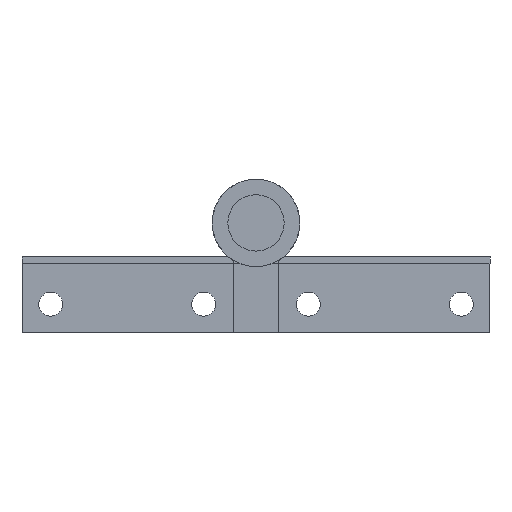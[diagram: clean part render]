
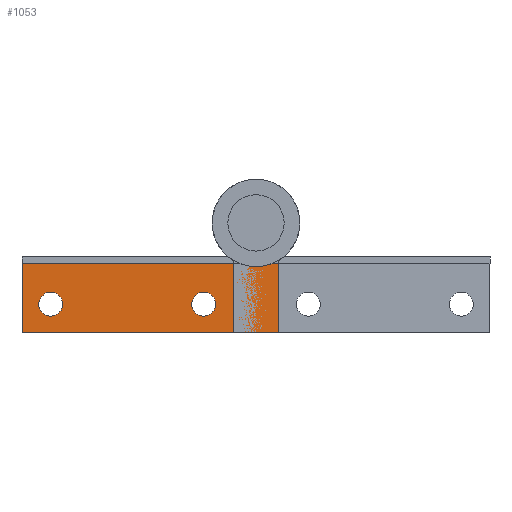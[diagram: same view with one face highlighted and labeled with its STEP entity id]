
A CAD part, front view. The second image highlights one B-rep face of the part: STEP entity #1053.
In plain terms, the highlighted planar face has unit normal (0, -1, 0).
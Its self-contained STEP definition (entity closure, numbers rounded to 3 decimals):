
#6 = PLANE ( 'NONE',  #1875 ) ;
#12 = CARTESIAN_POINT ( 'NONE',  ( 9.15, 408.2, -23. ) ) ;
#13 = DIRECTION ( 'NONE',  ( 0., 1., 0. ) ) ;
#14 = DIRECTION ( 'NONE',  ( 1., 0., 0. ) ) ;
#198 = CARTESIAN_POINT ( 'NONE',  ( -42.95, 408.2, -17. ) ) ;
#199 = DIRECTION ( 'NONE',  ( 0., 1., 0. ) ) ;
#200 = DIRECTION ( 'NONE',  ( 1., 0., 0. ) ) ;
#218 = CARTESIAN_POINT ( 'NONE',  ( -10.95, 408.2, -17. ) ) ;
#219 = DIRECTION ( 'NONE',  ( 0., 1., 0. ) ) ;
#220 = DIRECTION ( 'NONE',  ( 1., 0., 0. ) ) ;
#311 = CARTESIAN_POINT ( 'NONE',  ( 9.15, 408.2, -23. ) ) ;
#312 = DIRECTION ( 'NONE',  ( -1., 0., 0. ) ) ;
#428 = CARTESIAN_POINT ( 'NONE',  ( 4.75, 408.2, -23. ) ) ;
#429 = DIRECTION ( 'NONE',  ( 0., 0., -1. ) ) ;
#443 = CARTESIAN_POINT ( 'NONE',  ( -42.95, 408.2, -17. ) ) ;
#456 = DIRECTION ( 'NONE',  ( 0., 1., 0. ) ) ;
#457 = DIRECTION ( 'NONE',  ( 1., 0., 0. ) ) ;
#541 = CARTESIAN_POINT ( 'NONE',  ( 9.15, 408.2, -8.5 ) ) ;
#542 = DIRECTION ( 'NONE',  ( -1., 0., 0. ) ) ;
#552 = CARTESIAN_POINT ( 'NONE',  ( -10.95, 408.2, -17. ) ) ;
#565 = DIRECTION ( 'NONE',  ( 0., 1., 0. ) ) ;
#566 = DIRECTION ( 'NONE',  ( 1., 0., 0. ) ) ;
#567 = CARTESIAN_POINT ( 'NONE',  ( -48.95, 408.2, -23. ) ) ;
#568 = DIRECTION ( 'NONE',  ( 0., 0., -1. ) ) ;
#663 = EDGE_LOOP ( 'NONE', ( #1728, #1729 ) ) ;
#665 = EDGE_LOOP ( 'NONE', ( #1730, #1731 ) ) ;
#666 = EDGE_LOOP ( 'NONE', ( #1732, #1733, #1734, #1735 ) ) ;
#719 = VERTEX_POINT ( 'NONE', #882 ) ;
#720 = VERTEX_POINT ( 'NONE', #881 ) ;
#724 = VERTEX_POINT ( 'NONE', #883 ) ;
#726 = VERTEX_POINT ( 'NONE', #879 ) ;
#819 = CARTESIAN_POINT ( 'NONE',  ( -48.95, 408.2, -23. ) ) ;
#820 = CARTESIAN_POINT ( 'NONE',  ( -48.95, 408.2, -8.5 ) ) ;
#824 = CARTESIAN_POINT ( 'NONE',  ( 4.75, 408.2, -8.5 ) ) ;
#834 = CARTESIAN_POINT ( 'NONE',  ( 4.75, 408.2, -23. ) ) ;
#879 = CARTESIAN_POINT ( 'NONE',  ( -8.45, 408.2, -17. ) ) ;
#881 = CARTESIAN_POINT ( 'NONE',  ( -40.45, 408.2, -17. ) ) ;
#882 = CARTESIAN_POINT ( 'NONE',  ( -45.45, 408.2, -17. ) ) ;
#883 = CARTESIAN_POINT ( 'NONE',  ( -13.45, 408.2, -17. ) ) ;
#934 = VERTEX_POINT ( 'NONE', #834 ) ;
#944 = VERTEX_POINT ( 'NONE', #824 ) ;
#948 = VERTEX_POINT ( 'NONE', #820 ) ;
#949 = VERTEX_POINT ( 'NONE', #819 ) ;
#1053 = ADVANCED_FACE ( 'NONE', ( #1505, #1500, #1496 ), #6, .F. ) ;
#1109 = EDGE_CURVE ( 'NONE', #719, #720, #1803, .T. ) ;
#1117 = EDGE_CURVE ( 'NONE', #726, #724, #1413, .T. ) ;
#1165 = CIRCLE ( 'NONE', #2046, 2.5 ) ;
#1171 = VECTOR ( 'NONE', #568, 1000. ) ;
#1183 = VECTOR ( 'NONE', #542, 1000. ) ;
#1184 = LINE ( 'NONE', #541, #1183 ) ;
#1193 = LINE ( 'NONE', #567, #1171 ) ;
#1269 = VECTOR ( 'NONE', #429, 1000. ) ;
#1270 = LINE ( 'NONE', #428, #1269 ) ;
#1351 = VECTOR ( 'NONE', #312, 1000. ) ;
#1352 = LINE ( 'NONE', #311, #1351 ) ;
#1413 = CIRCLE ( 'NONE', #1968, 2.5 ) ;
#1496 = FACE_OUTER_BOUND ( 'NONE', #666, .T. ) ;
#1500 = FACE_BOUND ( 'NONE', #665, .T. ) ;
#1505 = FACE_BOUND ( 'NONE', #663, .T. ) ;
#1723 = CIRCLE ( 'NONE', #1893, 2.5 ) ;
#1728 = ORIENTED_EDGE ( 'NONE', *, *, #2090, .T. ) ;
#1729 = ORIENTED_EDGE ( 'NONE', *, *, #1117, .T. ) ;
#1730 = ORIENTED_EDGE ( 'NONE', *, *, #1109, .T. ) ;
#1731 = ORIENTED_EDGE ( 'NONE', *, *, #1983, .T. ) ;
#1732 = ORIENTED_EDGE ( 'NONE', *, *, #2065, .T. ) ;
#1733 = ORIENTED_EDGE ( 'NONE', *, *, #2091, .T. ) ;
#1734 = ORIENTED_EDGE ( 'NONE', *, *, #1853, .F. ) ;
#1735 = ORIENTED_EDGE ( 'NONE', *, *, #1955, .F. ) ;
#1803 = CIRCLE ( 'NONE', #2076, 2.5 ) ;
#1853 = EDGE_CURVE ( 'NONE', #934, #949, #1352, .T. ) ;
#1875 = AXIS2_PLACEMENT_3D ( 'NONE', #12, #13, #14 ) ;
#1893 = AXIS2_PLACEMENT_3D ( 'NONE', #443, #456, #457 ) ;
#1955 = EDGE_CURVE ( 'NONE', #944, #934, #1270, .T. ) ;
#1968 = AXIS2_PLACEMENT_3D ( 'NONE', #218, #219, #220 ) ;
#1983 = EDGE_CURVE ( 'NONE', #720, #719, #1723, .T. ) ;
#2046 = AXIS2_PLACEMENT_3D ( 'NONE', #552, #565, #566 ) ;
#2065 = EDGE_CURVE ( 'NONE', #944, #948, #1184, .T. ) ;
#2076 = AXIS2_PLACEMENT_3D ( 'NONE', #198, #199, #200 ) ;
#2090 = EDGE_CURVE ( 'NONE', #724, #726, #1165, .T. ) ;
#2091 = EDGE_CURVE ( 'NONE', #948, #949, #1193, .T. ) ;
